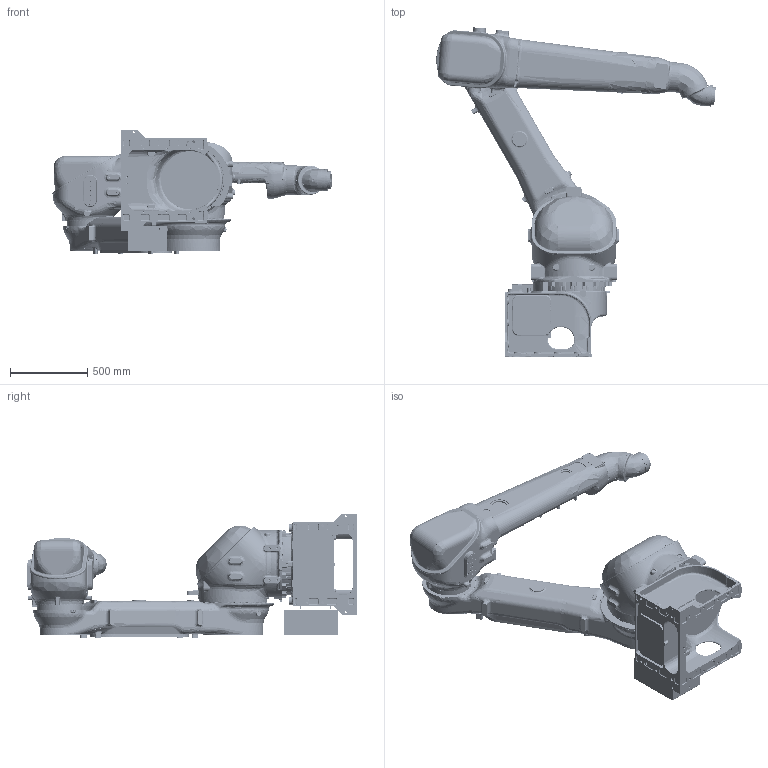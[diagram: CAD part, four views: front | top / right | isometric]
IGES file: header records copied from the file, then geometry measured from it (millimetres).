
Global section: file name: /home/cpfsmtu2/disk1/yax05/yax0504/v/MOTO/MPX3500 20141228/fertig/MPX3500.igs; native system: NX V8.0; preprocessor: SIEMENS PLM Software NX 8.0; date: 20150812.172653; units: millimetre
Bounding box: 1814.13 x 2135.87 x 807 mm (x, y, z)
Surface area: 9430035.2 mm2 (no closed solid volume)
Topology: 0 solids, 0 shells, 5017 faces, 40844 edges, 40662 vertices
Faces by surface type: bspline 5017
